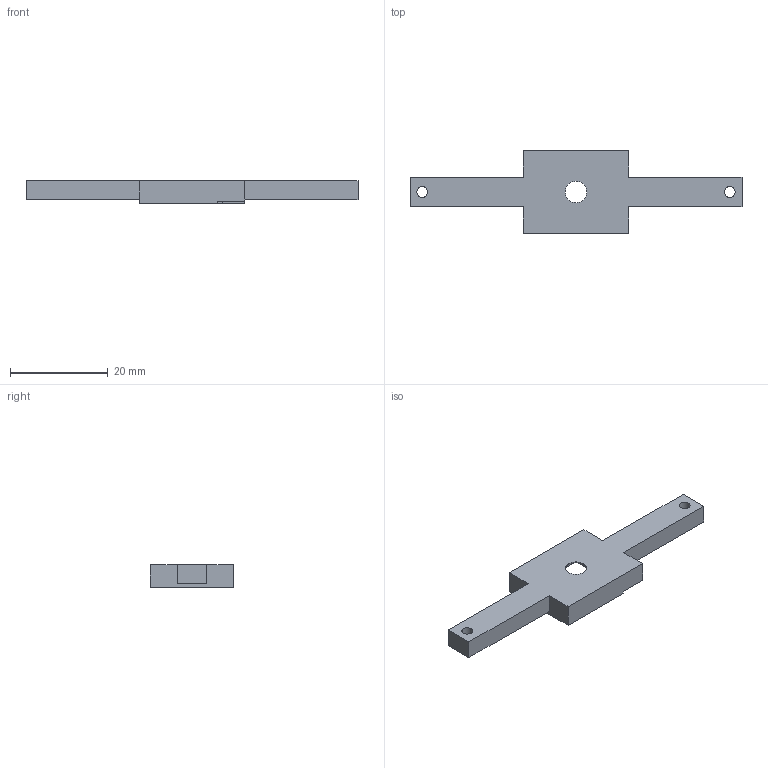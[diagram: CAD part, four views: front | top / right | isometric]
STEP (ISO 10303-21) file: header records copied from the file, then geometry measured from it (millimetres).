
FILE_DESCRIPTION(('Open CASCADE Model'),'2;1');
FILE_NAME('Open CASCADE Shape Model','2026-09-08T13:32:07',('Author'),( 'Open CASCADE'),'Open CASCADE STEP processor 7.7','Open CASCADE 7.7' ,'Unknown');
FILE_SCHEMA(('AUTOMOTIVE_DESIGN { 1 0 10303 214 1 1 1 1 }'));
Length unit declared in the file: millimetre
Products named in the file (1): Open CASCADE STEP translator 7.7 28
Bounding box: 68 x 17 x 4.7 mm (x, y, z)
Volume: 2162.2 mm3; surface area: 2302.2 mm2
Topology: 1 solids, 1 shells, 35 faces, 84 edges, 56 vertices
Faces by surface type: plane 27, cylinder 8
Full cylindrical faces by diameter (mm): 1.7 x4, 2.2 x2, 4.4 x1, 7.6 x1
Entity records: 2128 total; most frequent: CARTESIAN_POINT 344, DIRECTION 340, LINE 220, VECTOR 220, ORIENTED_EDGE 168, PCURVE 168, DEFINITIONAL_REPRESENTATION 168, EDGE_CURVE 84
